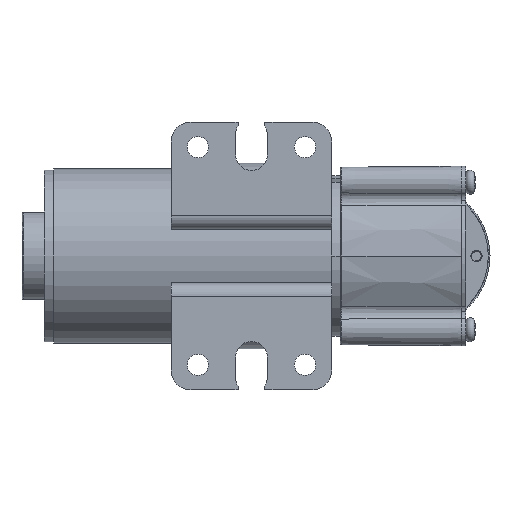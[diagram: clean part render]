
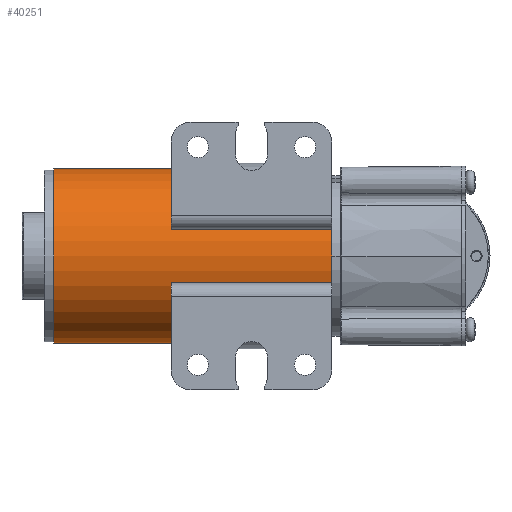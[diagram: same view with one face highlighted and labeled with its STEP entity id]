
A CAD part, front view. The second image highlights one B-rep face of the part: STEP entity #40251.
In plain terms, the highlighted cylindrical face has radius 26 mm (diameter 52 mm), a partial arc.
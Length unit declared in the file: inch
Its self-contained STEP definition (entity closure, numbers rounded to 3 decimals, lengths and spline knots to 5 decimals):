
#1463 = CIRCLE ( 'NONE', #24841, 1.02363 ) ;
#1555 = AXIS2_PLACEMENT_3D ( 'NONE', #31909, #9143, #16038 ) ;
#1755 = VERTEX_POINT ( 'NONE', #2522 ) ;
#2194 = VERTEX_POINT ( 'NONE', #32693 ) ;
#2522 = CARTESIAN_POINT ( 'NONE',  ( 0., 0., 1.02363 ) ) ;
#3809 = EDGE_CURVE ( 'NONE', #1755, #2194, #18570, .T. ) ;
#5337 = LINE ( 'NONE', #15145, #40901 ) ;
#5733 = CARTESIAN_POINT ( 'NONE',  ( 3.26772, 0., -1.02363 ) ) ;
#6714 = ORIENTED_EDGE ( 'NONE', *, *, #34001, .T. ) ;
#9143 = DIRECTION ( 'NONE',  ( 1., 0., 0. ) ) ;
#9363 = DIRECTION ( 'NONE',  ( 1., 0., 0. ) ) ;
#9928 = VERTEX_POINT ( 'NONE', #20128 ) ;
#10014 = DIRECTION ( 'NONE',  ( 1., 0., 0. ) ) ;
#13149 = FACE_OUTER_BOUND ( 'NONE', #27893, .T. ) ;
#15145 = CARTESIAN_POINT ( 'NONE',  ( 0., 0., -1.02363 ) ) ;
#15873 = VERTEX_POINT ( 'NONE', #5733 ) ;
#16038 = DIRECTION ( 'NONE',  ( 0., 0., -1. ) ) ;
#18570 = LINE ( 'NONE', #31297, #31436 ) ;
#19514 = DIRECTION ( 'NONE',  ( 0., 0., 1. ) ) ;
#19842 = CARTESIAN_POINT ( 'NONE',  ( 0., 0., 0. ) ) ;
#20126 = DIRECTION ( 'NONE',  ( -1., 0., 0. ) ) ;
#20128 = CARTESIAN_POINT ( 'NONE',  ( 0., 0., -1.02363 ) ) ;
#20806 = DIRECTION ( 'NONE',  ( 1., 0., 0. ) ) ;
#22776 = DIRECTION ( 'NONE',  ( 0., 0., -1. ) ) ;
#24841 = AXIS2_PLACEMENT_3D ( 'NONE', #29100, #20126, #19514 ) ;
#25910 = CYLINDRICAL_SURFACE ( 'NONE', #38459, 1.02363 ) ;
#26848 = ORIENTED_EDGE ( 'NONE', *, *, #3809, .F. ) ;
#27893 = EDGE_LOOP ( 'NONE', ( #26848, #30738, #6714, #31964 ) ) ;
#29100 = CARTESIAN_POINT ( 'NONE',  ( 3.26772, 0., 0. ) ) ;
#30738 = ORIENTED_EDGE ( 'NONE', *, *, #34941, .T. ) ;
#31297 = CARTESIAN_POINT ( 'NONE',  ( 0., 0., 1.02363 ) ) ;
#31436 = VECTOR ( 'NONE', #9363, 39.37008 ) ;
#31909 = CARTESIAN_POINT ( 'NONE',  ( 0., 0., 0. ) ) ;
#31964 = ORIENTED_EDGE ( 'NONE', *, *, #32991, .T. ) ;
#32693 = CARTESIAN_POINT ( 'NONE',  ( 3.26772, 0., 1.02363 ) ) ;
#32991 = EDGE_CURVE ( 'NONE', #15873, #2194, #1463, .T. ) ;
#34001 = EDGE_CURVE ( 'NONE', #9928, #15873, #5337, .T. ) ;
#34932 = CIRCLE ( 'NONE', #1555, 1.02363 ) ;
#34941 = EDGE_CURVE ( 'NONE', #1755, #9928, #34932, .T. ) ;
#38459 = AXIS2_PLACEMENT_3D ( 'NONE', #19842, #10014, #22776 ) ;
#40251 = ADVANCED_FACE ( 'NONE', ( #13149 ), #25910, .T. ) ;
#40901 = VECTOR ( 'NONE', #20806, 39.37008 ) ;
